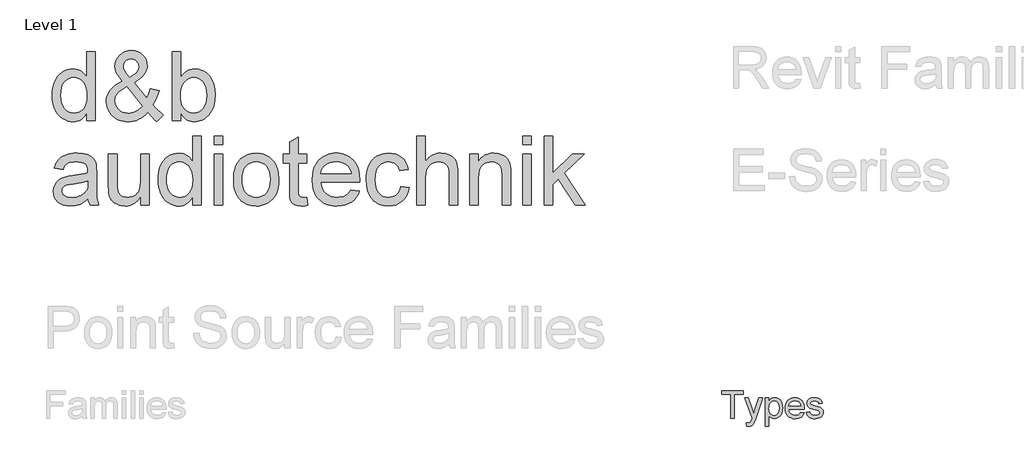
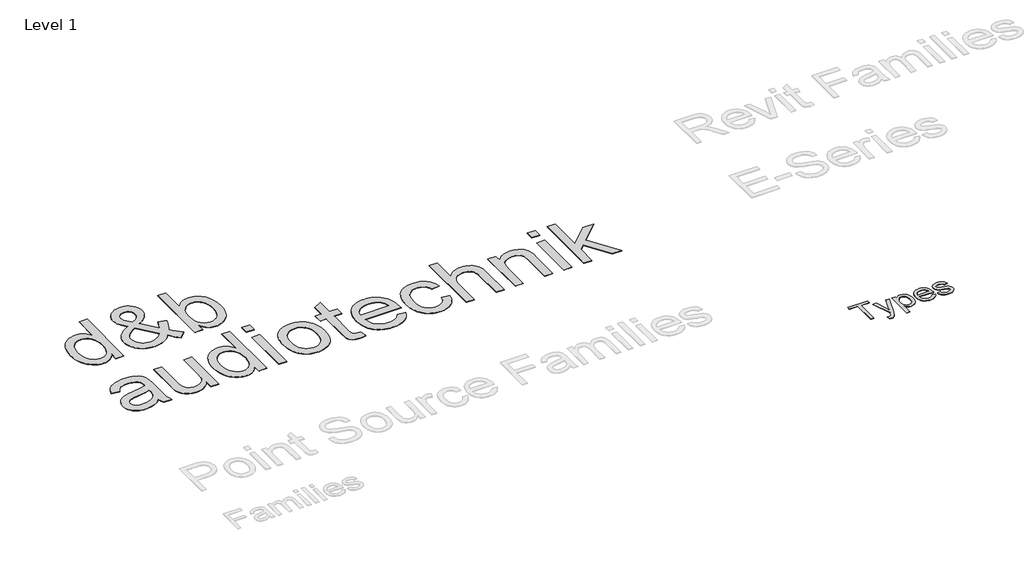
# One storey, part 5 of 6: 2 proxies.
"""IFC4 building model written with IfcOpenShell, lengths in millimetres."""

from ifc_helpers import new_model, si_unit, origin, origin_with_axes, place, context, project, spatial, polyline, outline, extrude, element, save

model = new_model("IFC4")

# Units and contexts
model_context = context("Model", 3, world=origin())
ifc_project = project(units=[si_unit("LENGTHUNIT", "METRE", prefix="MILLI")], contexts=[model_context])

# Site, building, storey
site = spatial("IfcSite", under=ifc_project)
building = spatial("IfcBuilding", under=site)
storey = spatial("IfcBuildingStorey", under=building, Name="Level 1", Elevation=0.0)

# Proxies
placement = place(None, origin())
element("IfcBuildingElementProxy", 1, Name="1000mm Arial", ObjectType="1000mm Arial", at=placement, inside=storey, context=model_context, shape_type="SweptSolid", body=[
    extrude(outline(polyline([(-20485.0918031, 21579.111869), (-20485.0918031, 21694.6019258), (-20502.4384754, 21663.947296), (-20521.720443, 21637.3799502), (-20542.937706, 21614.8998883), (-20566.0902643, 21596.5071105), (-20591.1781179, 21582.2016166), (-20618.2012669, 21571.9834066), (-20647.1597112, 21565.8524807), (-20678.0534508, 21563.8088387), (-20718.4630152, 21566.7678231), (-20757.1988107, 21575.6447762), (-20794.2608372, 21590.4396981), (-20829.6490948, 21611.1525887), (-20862.2577004, 21637.1632569), (-20890.9807709, 21667.8515115), (-20915.8183064, 21703.2173525), (-20936.7703069, 21743.26078), (-20953.4033857, 21787.2196312), (-20965.2841563, 21834.3317435), (-20972.4126187, 21884.597117), (-20974.7887728, 21938.0157516), (-20972.5994233, 21990.4555302), (-20966.0313746, 22040.4145442), (-20955.0846269, 22087.8927935), (-20939.75918, 22132.8902781), (-20920.0625062, 22174.0918939), (-20896.0020777, 22210.1825366), (-20867.5778945, 22241.1622064), (-20834.7899565, 22267.0309031), (-20798.7964521, 22287.429962), (-20760.7555697, 22302.0007184), (-20720.6673091, 22310.7431723), (-20678.5316705, 22313.6573235), (-20647.7163888, 22311.5725845), (-20618.6346535, 22305.3183676), (-20591.2864646, 22294.8946726), (-20565.671822, 22280.3014997), (-20542.0746689, 22262.3757332), (-20520.778948, 22241.9542577), (-20501.7846594, 22219.0370732), (-20485.0918031, 22193.6241796), (-20485.0918031, 22558.5058084), (-20362.6675607, 22558.5058084), (-20362.6675607, 21579.111869), (-20485.0918031, 21579.111869)]), holes=[polyline([(-20852.3645304, 21938.4939713), (-20848.9123819, 21879.1274792), (-20838.5559366, 21827.7562227), (-20821.2951944, 21784.3802017), (-20797.1301554, 21748.9994163), (-20768.2725855, 21721.5391447), (-20736.934251, 21701.9246649), (-20703.1151518, 21690.1559771), (-20666.815288, 21686.2330811), (-20630.3435639, 21689.9766447), (-20596.7262136, 21701.2073354), (-20565.9632372, 21719.9251532), (-20538.0546345, 21746.1300982), (-20514.8833958, 21780.0313914), (-20498.332511, 21821.8382539), (-20488.4019801, 21871.5506859), (-20485.0918031, 21929.1686872), (-20488.4617575, 21992.3385203), (-20498.5716208, 22046.5118453), (-20515.4213929, 22091.6886623), (-20539.0110739, 22127.8689713), (-20567.5323956, 22155.5907693), (-20599.1770896, 22175.3920537), (-20633.945156, 22187.2728242), (-20671.8365948, 22191.2330811), (-20708.8537882, 22187.4297401), (-20742.6728874, 22176.019717), (-20773.2938924, 22157.0030119), (-20800.7168031, 22130.3796247), (-20823.3126838, 22095.5667252), (-20839.4525986, 22051.9814831), (-20849.1365474, 21999.6238985), (-20852.3645304, 21938.4939713)])]), origin_with_axes(), (0.0, 0.0, 1.0), 5.0),
    extrude(outline(polyline([(-19617.362163, 21700.1014523), (-19647.8038355, 21668.157871), (-19679.590501, 21640.4734339), (-19712.7221594, 21617.0481409), (-19747.1988107, 21597.8819921), (-19783.0503436, 21582.9749875), (-19820.3066469, 21572.327127), (-19858.9677205, 21565.9384108), (-19899.0335645, 21563.8088387), (-19935.7219818, 21565.3854693), (-19970.4676317, 21570.1153609), (-20003.270514, 21577.9985138), (-20034.1306289, 21589.0349277), (-20063.0479762, 21603.2246028), (-20090.0225559, 21620.567539), (-20115.0543682, 21641.0637363), (-20138.143413, 21664.7131948), (-20169.42197, 21707.0505823), (-20191.7637965, 21751.8089571), (-20205.1688924, 21798.988319), (-20209.6372577, 21848.5886682), (-20206.0431377, 21892.569936), (-20195.260778, 21934.3693264), (-20177.2901785, 21973.9868394), (-20152.1313391, 22011.4224751), (-20119.829093, 22046.661289), (-20080.4282733, 22079.6883368), (-20033.9288799, 22110.5036185), (-19980.330913, 22139.1071341), (-20033.7420754, 22208.2098804), (-20065.8126838, 22262.9660357), (-20081.8629324, 22309.712011), (-20087.2130152, 22354.7842175), (-20082.9987041, 22397.569936), (-20070.3557709, 22437.4564476), (-20049.2842155, 22474.4437523), (-20019.784038, 22508.5318501), (-19983.9026163, 22537.0905326), (-19943.6873287, 22557.4895915), (-19899.138175, 22569.7290269), (-19850.2551554, 22573.8088387), (-19803.5839018, 22569.9083593), (-19761.3660692, 22558.2069211), (-19723.6016575, 22538.7045241), (-19690.2906667, 22511.4011682), (-19663.0919215, 22478.6281746), (-19643.6642463, 22442.7168643), (-19632.0076412, 22403.6672371), (-19628.1221061, 22361.4792932), (-19630.9988965, 22326.7336434), (-19639.6292676, 22293.273209), (-19654.0132194, 22261.09799), (-19674.150752, 22230.2079864), (-19700.0418653, 22200.6031983), (-19731.6865593, 22172.2836256), (-19769.084834, 22145.2492684), (-19812.2366895, 22119.5001266), (-19635.0562917, 21898.8017364), (-19604.8686734, 21961.866959), (-19582.2130152, 22034.3770205), (-19459.7887728, 22007.8358273), (-19477.213903, 21947.9836434), (-19497.4485739, 21894.4379817), (-19520.4927856, 21847.1988422), (-19546.346538, 21806.2662251), (-19512.6320493, 21763.9138931), (-19476.765572, 21725.0884315), (-19438.7471061, 21689.7898401), (-19398.5766516, 21658.018119), (-19490.3948334, 21563.8088387), (-19521.3745032, 21589.6327023), (-19552.8622813, 21620.9560925), (-19617.362163, 21700.1014523)]), holes=[polyline([(-19874.1661402, 22196.7326076), (-19810.1444783, 22237.3513931), (-19788.4004264, 22255.6657131), (-19773.500894, 22272.6499845), (-19756.2849849, 22306.9921365), (-19750.5463486, 22344.7416038), (-19752.4368108, 22367.2104574), (-19758.1081975, 22387.512378), (-19767.5605087, 22405.6473656), (-19780.7937444, 22421.6154201), (-19796.8664095, 22434.6394347), (-19814.8370091, 22443.9423022), (-19834.705543, 22449.5240228), (-19856.4720114, 22451.3845963), (-19878.7017552, 22449.5389671), (-19899.0036757, 22444.0020797), (-19917.3777732, 22434.773934), (-19933.8240474, 22421.85453), (-19947.3711148, 22406.2750289), (-19957.0475915, 22389.066592), (-19962.8534775, 22370.2292193), (-19964.7887728, 22349.7629107), (-19962.1585645, 22327.9142483), (-19954.2679395, 22304.9298141), (-19941.0571203, 22280.6900532), (-19922.4663296, 22255.0754107), (-19874.1661402, 22196.7326076)]), polyline([(-19699.376841, 21788.3329864), (-19917.9232425, 22061.1573235), (-19963.7202507, 22034.0333001), (-20001.4024684, 22007.8956048), (-20030.9698956, 21982.7442376), (-20052.4225323, 21958.5791985), (-20067.6433686, 21934.967101), (-20078.5153945, 21911.4745584), (-20085.03861, 21888.1015707), (-20087.2130152, 21864.8481379), (-20084.2390865, 21836.2446223), (-20075.3173003, 21807.1031095), (-20060.4476566, 21777.4235996), (-20039.6301554, 21747.2060925), (-20013.3579608, 21720.5304), (-19982.1242368, 21701.476334), (-19945.9289835, 21690.0438943), (-19904.7722008, 21686.2330811), (-19877.2969848, 21688.0114606), (-19849.3883822, 21693.3465991), (-19821.0463929, 21702.2384966), (-19792.2710171, 21714.6871531), (-19764.7210793, 21729.9602947), (-19740.055404, 21747.3256474), (-19718.2739912, 21766.7832113), (-19699.376841, 21788.3329864)])]), origin_with_axes(), (0.0, 0.0, 1.0), 5.0),
    extrude(outline(polyline([(-19153.7281667, 21579.111869), (-19276.1524092, 21579.111869), (-19276.1524092, 22558.5058084), (-19153.7281667, 22558.5058084), (-19153.7281667, 22195.2979485), (-19134.2481863, 22223.0384271), (-19113.468046, 22247.0801751), (-19091.3877459, 22267.4231927), (-19068.0072861, 22284.0674798), (-19043.3266664, 22297.0130364), (-19017.3458869, 22306.2598626), (-18990.0649476, 22311.8079583), (-18961.4838486, 22313.6573235), (-18929.5178507, 22311.9910268), (-18898.418626, 22306.9921365), (-18868.1861746, 22298.6606527), (-18838.8204963, 22286.9965754), (-18811.1734201, 22272.3137363), (-18786.0967747, 22254.925967), (-18763.5905602, 22234.8332675), (-18743.6547766, 22212.0356379), (-18710.3886189, 22158.7440305), (-18685.1924186, 22095.4695868), (-18669.3215024, 22024.8425153), (-18664.031197, 21949.4930243), (-18669.508307, 21862.5467056), (-18676.3546945, 21822.9964423), (-18685.9396369, 21786.0614429), (-18698.2631343, 21751.7417074), (-18713.3251867, 21720.0372359), (-18731.1257941, 21690.9480284), (-18751.6649565, 21664.4740849), (-18797.6861302, 21620.4330397), (-18822.3499374, 21603.1312005), (-18848.1158916, 21588.9751502), (-18874.9839928, 21577.9648889), (-18902.954241, 21570.1004166), (-18932.0266361, 21565.3817332), (-18962.2011781, 21563.8088387), (-18991.8694798, 21565.8375363), (-19019.9013734, 21571.9236292), (-19046.296859, 21582.0671173), (-19071.0559366, 21596.2680006), (-19094.1786062, 21614.5262792), (-19115.6648677, 21636.841953), (-19135.5147213, 21663.2150221), (-19153.7281667, 21693.6454864), (-19153.7281667, 21579.111869)]), holes=[polyline([(-19153.7281667, 21943.7543879), (-19151.6359556, 21888.5797904), (-19145.359322, 21841.6544826), (-19134.8982662, 21802.9784646), (-19120.252788, 21772.5517364), (-19090.5882224, 21734.7873247), (-19056.1115711, 21707.8127449), (-19016.8228341, 21691.6279971), (-18972.7220114, 21686.2330811), (-18936.1083159, 21690.2082823), (-18902.0650512, 21702.133886), (-18870.5922174, 21722.0098922), (-18841.6898145, 21749.8363008), (-18817.5247754, 21785.5383901), (-18800.2640332, 21829.0414381), (-18789.9075879, 21880.345445), (-18786.4554395, 21939.4504107), (-18789.7656164, 21999.6762037), (-18799.6961473, 22051.4733747), (-18816.2470322, 22094.8419234), (-18839.4182709, 22129.7818501), (-18867.2820404, 22156.6667636), (-18897.9105176, 22175.8702733), (-18931.3037024, 22187.3923792), (-18967.4615948, 22191.2330811), (-19004.0752903, 22187.2578799), (-19038.118555, 22175.3322762), (-19069.5913888, 22155.45627), (-19098.4937917, 22127.6298614), (-19122.6588308, 22092.2864369), (-19139.919573, 22049.8593832), (-19150.2760183, 22000.3487002), (-19153.7281667, 21943.7543879)])]), origin_with_axes(), (0.0, 0.0, 1.0), 5.0),
    extrude(outline(polyline([(-20469.7887728, 20473.9603538), (-20498.8182028, 20446.7167755), (-20528.2810195, 20423.8070631), (-20558.1772227, 20405.2312168), (-20588.5068126, 20390.9892364), (-20619.6135094, 20380.42357), (-20651.8410337, 20372.8766654), (-20719.6585645, 20366.8391417), (-20774.1681377, 20370.4706225), (-20821.9676909, 20381.365065), (-20863.0572239, 20399.5224691), (-20897.4367368, 20424.9428349), (-20924.5831768, 20456.0121708), (-20943.9734911, 20491.1164855), (-20955.6076796, 20530.2557788), (-20959.4857425, 20573.4300508), (-20953.6275512, 20624.1811162), (-20936.0529773, 20670.2695394), (-20908.9438983, 20709.7226644), (-20874.4821914, 20740.5678349), (-20833.9829608, 20763.8810451), (-20788.7613107, 20780.7382894), (-20744.7053211, 20790.123351), (-20682.8356478, 20799.1497478), (-20557.6616421, 20818.5176455), (-20509.331564, 20829.4569211), (-20470.5061023, 20841.2330811), (-20469.7887728, 20868.4916038), (-20471.8959283, 20898.1711138), (-20478.217395, 20923.1282042), (-20488.7531727, 20943.3628751), (-20503.5032614, 20958.8751266), (-20528.998349, 20974.3574893), (-20560.0527406, 20985.4163198), (-20596.6664362, 20992.051618), (-20638.8394357, 20994.2633841), (-20678.0534508, 20992.7913641), (-20711.7679395, 20988.3753041), (-20739.9829016, 20981.0152041), (-20762.6983372, 20970.7110641), (-20781.3638497, 20956.6558883), (-20797.4290427, 20938.042681), (-20810.893916, 20914.8714423), (-20821.7584698, 20887.142172), (-20944.1827122, 20902.4452023), (-20934.8649003, 20937.713905), (-20922.9318244, 20969.3959599), (-20908.3834846, 20997.4913671), (-20891.2198808, 21022.0001266), (-20870.7012669, 21043.4154024), (-20846.0878969, 21062.2303586), (-20817.3797707, 21078.4449952), (-20784.5768883, 21092.0593122), (-20748.3442741, 21102.8341997), (-20709.3469523, 21110.530548), (-20667.5849228, 21115.1483569), (-20623.0581857, 21116.6876266), (-20540.2962894, 21111.2478775), (-20505.3488906, 21104.4481912), (-20474.6905247, 21094.9286304), (-20425.2246748, 21070.3899822), (-20406.1631366, 21056.0359191), (-20390.8825228, 21040.29203), (-20368.1073097, 21003.0805598), (-20353.3422766, 20957.2013576), (-20348.8589669, 20914.8789144), (-20347.3645304, 20850.0801455), (-20347.3645304, 20697.767172), (-20345.8103164, 20565.0910948), (-20341.1476743, 20485.0789618), (-20331.9419452, 20432.5046839), (-20316.7584698, 20382.142172), (-20439.1827122, 20382.142172), (-20458.7897198, 20424.7037251), (-20469.7887728, 20473.9603538)]), holes=[polyline([(-20469.7887728, 20718.8088387), (-20552.0425607, 20698.4247241), (-20667.2935077, 20681.2685925), (-20730.8070612, 20671.8835309), (-20772.6213959, 20661.4224751), (-20800.0293623, 20647.8529912), (-20820.3238107, 20629.1426455), (-20832.8770777, 20606.7260972), (-20837.0615001, 20582.0380054), (-20834.7824843, 20563.013828), (-20827.9454371, 20545.6335309), (-20816.5503584, 20529.897114), (-20800.5972482, 20515.8045773), (-20780.2355501, 20504.1928053), (-20755.6147079, 20495.8986824), (-20726.7347215, 20490.9222087), (-20693.595591, 20489.2633841), (-20659.7615474, 20491.0940689), (-20627.8403827, 20496.5861233), (-20597.8320967, 20505.7395471), (-20569.7366895, 20518.5543406), (-20544.3910455, 20533.9694536), (-20522.6320493, 20550.9238363), (-20504.4597008, 20569.4174887), (-20489.8740001, 20589.4504107), (-20481.4005448, 20607.3836493), (-20475.3480768, 20629.1426455), (-20470.5061023, 20684.1379107), (-20469.7887728, 20718.8088387)])]), origin_with_axes(), (0.0, 0.0, 1.0), 5.0),
    extrude(outline(polyline([(-19719.940288, 20382.142172), (-19719.940288, 20505.7619637), (-19741.1762314, 20473.2019273), (-19764.2353874, 20444.9832291), (-19789.117756, 20421.1058691), (-19815.8233372, 20401.5698472), (-19844.352131, 20386.3751636), (-19874.7041374, 20375.5218181), (-19906.8793564, 20369.0098108), (-19940.877788, 20366.8391417), (-20000.5058064, 20372.9364429), (-20028.7730738, 20380.5580693), (-20056.00918, 20391.2283463), (-20102.575823, 20418.7259788), (-20120.7033384, 20434.8061162), (-20135.3936497, 20452.4404675), (-20157.4814219, 20493.388029), (-20171.8579016, 20542.5848804), (-20177.2378732, 20588.972191), (-20179.031197, 20656.4011682), (-20179.031197, 21101.3845963), (-20056.6069546, 21101.3845963), (-20056.6069546, 20714.0266417), (-20054.7538533, 20636.5550508), (-20049.1945493, 20589.2113008), (-20041.864338, 20567.1459451), (-20031.3509769, 20547.5762984), (-20017.6544659, 20530.5023608), (-20000.774805, 20515.9241323), (-19981.2201027, 20504.260055), (-19959.4984674, 20495.9285712), (-19935.6098991, 20490.9296809), (-19909.5543978, 20489.2633841), (-19882.7217895, 20490.9670418), (-19856.74101, 20496.0780148), (-19831.6120594, 20504.5963032), (-19807.3349376, 20516.5219069), (-19785.2247488, 20531.3840784), (-19766.5965971, 20548.7120702), (-19751.4504827, 20568.5058824), (-19739.7864054, 20590.7655148), (-19731.103729, 20616.9106823), (-19724.9018173, 20648.3610996), (-19719.940288, 20727.1776834), (-19719.940288, 21101.3845963), (-19597.5160455, 21101.3845963), (-19597.5160455, 20382.142172), (-19719.940288, 20382.142172)])), origin_with_axes(), (0.0, 0.0, 1.0), 5.0),
    extrude(outline(polyline([(-18985.3948334, 20382.142172), (-18985.3948334, 20497.6322288), (-19002.7415057, 20466.977599), (-19022.0234733, 20440.4102532), (-19043.2407363, 20417.9301914), (-19066.3932946, 20399.5374135), (-19091.4811482, 20385.2319196), (-19118.5042972, 20375.0137097), (-19147.4627415, 20368.8827837), (-19178.3564811, 20366.8391417), (-19218.7660455, 20369.7981261), (-19257.501841, 20378.6750792), (-19294.5638675, 20393.4700011), (-19329.9521251, 20414.1828917), (-19362.5607307, 20440.1935599), (-19391.2838012, 20470.8818145), (-19416.1213367, 20506.2476556), (-19437.0733372, 20546.291083), (-19453.706416, 20590.2499342), (-19465.5871866, 20637.3620466), (-19472.715649, 20687.62742), (-19475.0918031, 20741.0460546), (-19472.9024536, 20793.4858332), (-19466.3344049, 20843.4448472), (-19455.3876572, 20890.9230965), (-19440.0622103, 20935.9205811), (-19420.3655365, 20977.1221969), (-19396.305108, 21013.2128396), (-19367.8809248, 21044.1925094), (-19335.0929868, 21070.0612061), (-19299.0994824, 21090.4602651), (-19261.0586, 21105.0310215), (-19220.9703394, 21113.7734753), (-19178.8347008, 21116.6876266), (-19148.0194191, 21114.6028876), (-19118.9376838, 21108.3486706), (-19091.5894949, 21097.9249756), (-19065.9748523, 21083.3318027), (-19042.3776992, 21065.4060363), (-19021.0819783, 21044.9845608), (-19002.0876897, 21022.0673762), (-18985.3948334, 20996.6544826), (-18985.3948334, 21361.5361114), (-18862.970591, 21361.5361114), (-18862.970591, 20382.142172), (-18985.3948334, 20382.142172)]), holes=[polyline([(-19352.6675607, 20741.5242743), (-19349.2154122, 20682.1577822), (-19338.8589669, 20630.7865257), (-19321.5982247, 20587.4105048), (-19297.4331857, 20552.0297194), (-19268.5756158, 20524.5694477), (-19237.2372813, 20504.954968), (-19203.4181821, 20493.1862801), (-19167.1183183, 20489.2633841), (-19130.6465942, 20493.0069477), (-19097.0292439, 20504.2376384), (-19066.2662675, 20522.9554562), (-19038.3576648, 20549.1604012), (-19015.1864261, 20583.0616944), (-18998.6355413, 20624.868557), (-18988.7050104, 20674.5809889), (-18985.3948334, 20732.1989902), (-18988.7647878, 20795.3688233), (-18998.8746511, 20849.5421483), (-19015.7244233, 20894.7189653), (-19039.3141042, 20930.8992743), (-19067.8354259, 20958.6210724), (-19099.4801199, 20978.4223567), (-19134.2481863, 20990.3031273), (-19172.1396251, 20994.2633841), (-19209.1568185, 20990.4600431), (-19242.9759177, 20979.05002), (-19273.5969227, 20960.0333149), (-19301.0198334, 20933.4099277), (-19323.6157141, 20898.5970282), (-19339.7556289, 20855.0117861), (-19349.4395777, 20802.6542015), (-19352.6675607, 20741.5242743)])]), origin_with_axes(), (0.0, 0.0, 1.0), 5.0),
    extrude(outline(polyline([(-18679.3342273, 20382.142172), (-18679.3342273, 21101.3845963), (-18556.9099849, 21101.3845963), (-18556.9099849, 20382.142172), (-18679.3342273, 20382.142172)])), origin_with_axes(), (0.0, 0.0, 1.0), 5.0),
    extrude(outline(polyline([(-18679.3342273, 21239.111869), (-18679.3342273, 21361.5361114), (-18556.9099849, 21361.5361114), (-18556.9099849, 21239.111869), (-18679.3342273, 21239.111869)])), origin_with_axes(), (0.0, 0.0, 1.0), 5.0),
    extrude(outline(polyline([(-18403.8796819, 20741.7633841), (-18402.2245934, 20789.9477547), (-18397.259328, 20834.9116145), (-18388.9838856, 20876.6549635), (-18377.3982662, 20915.1778018), (-18362.5024698, 20950.4801292), (-18344.2964965, 20982.5619459), (-18322.7803463, 21011.4232519), (-18297.954019, 21037.064047), (-18251.2977098, 21071.8993631), (-18199.7994262, 21096.7817317), (-18143.4591682, 21111.7111528), (-18082.2769357, 21116.6876266), (-18014.7358757, 21110.6276863), (-17983.391937, 21103.0527611), (-17953.6657259, 21092.4478657), (-17925.5572424, 21078.8130002), (-17899.0664865, 21062.1481646), (-17874.1934581, 21042.4533588), (-17850.9381573, 21019.728583), (-17829.8946226, 20994.3325018), (-17811.6568925, 20966.6237801), (-17796.224967, 20936.6024178), (-17783.5988462, 20904.2684149), (-17773.77853, 20869.6217715), (-17766.7640184, 20832.6624875), (-17761.1524092, 20751.8059978), (-17763.6331738, 20686.2749549), (-17771.0754679, 20628.1264287), (-17783.4792913, 20577.3604189), (-17800.844644, 20533.9769258), (-17822.9548328, 20496.5039292), (-17849.5931644, 20463.4694092), (-17880.7596387, 20434.8733658), (-17916.4542558, 20410.7157989), (-17955.2871896, 20391.5197614), (-17995.8686142, 20377.808306), (-18038.1985295, 20369.5814328), (-18082.2769357, 20366.8391417), (-18150.8043238, 20372.8766654), (-18182.4845107, 20380.42357), (-18212.4423594, 20390.9892364), (-18240.6778701, 20404.5736647), (-18267.1910426, 20421.1768548), (-18291.9818769, 20440.7988067), (-18315.0503732, 20463.4395205), (-18335.8697424, 20488.9196637), (-18353.9131957, 20517.059904), (-18369.1807332, 20547.8602414), (-18381.6723547, 20581.3206758), (-18391.3880604, 20617.4412073), (-18398.3278501, 20656.2218358), (-18403.8796819, 20741.7633841)]), holes=[polyline([(-18281.4554395, 20742.002494), (-18277.9136248, 20682.6210576), (-18267.2881809, 20631.204968), (-18249.5791078, 20587.7542252), (-18224.7864054, 20552.2688292), (-18194.6286757, 20524.703947), (-18160.8245209, 20505.0147454), (-18123.3739409, 20493.2012245), (-18082.2769357, 20489.2633841), (-18041.3891516, 20493.223641), (-18004.0880152, 20505.1044116), (-17970.3735266, 20524.9056959), (-17940.2456857, 20552.627494), (-17915.4529833, 20588.4640825), (-17897.7439101, 20632.6097383), (-17887.1184662, 20685.0644613), (-17883.5766516, 20745.8282516), (-17887.1408828, 20803.3266979), (-17897.8335763, 20853.3977947), (-17915.6547322, 20896.0415417), (-17940.6043505, 20931.2579391), (-17970.8442741, 20958.8228213), (-18004.5363462, 20978.5120229), (-18041.6805667, 20990.3255438), (-18082.2769357, 20994.2633841), (-18123.3739409, 20990.3404882), (-18160.8245209, 20978.5718003), (-18194.6286757, 20958.9573206), (-18224.7864054, 20931.4970489), (-18249.5791078, 20896.1162635), (-18267.2881809, 20852.7402426), (-18277.9136248, 20801.3689861), (-18281.4554395, 20742.002494)])]), origin_with_axes(), (0.0, 0.0, 1.0), 5.0),
    extrude(outline(polyline([(-17363.2736213, 20484.2420773), (-17347.970591, 20378.5555243), (-17396.4501128, 20369.7682374), (-17439.549663, 20366.8391417), (-17498.3109082, 20371.920226), (-17522.0873938, 20378.2715814), (-17542.127788, 20387.1634788), (-17573.0925133, 20410.6560215), (-17593.2972955, 20440.4849751), (-17599.7831502, 20461.5415861), (-17604.4159035, 20491.7142601), (-17608.1221061, 20579.407797), (-17608.1221061, 20978.9603538), (-17699.940288, 20978.9603538), (-17699.940288, 21101.3845963), (-17608.1221061, 21101.3845963), (-17608.1221061, 21276.1738955), (-17485.6978637, 21348.1459599), (-17485.6978637, 21101.3845963), (-17363.2736213, 21101.3845963), (-17363.2736213, 20978.9603538), (-17485.6978637, 20978.9603538), (-17485.6978637, 20582.9944448), (-17484.0838722, 20542.7044353), (-17479.2418978, 20519.8694448), (-17470.7833869, 20507.2265115), (-17458.3197861, 20497.5126739), (-17440.655546, 20491.3257066), (-17416.5951175, 20489.2633841), (-17363.2736213, 20484.2420773)])), origin_with_axes(), (0.0, 0.0, 1.0), 5.0),
    extrude(outline(polyline([(-16737.284038, 20596.3845963), (-16617.250894, 20581.081566), (-16635.6548802, 20533.0055421), (-16660.4998879, 20490.6382658), (-16691.7859171, 20453.9797371), (-16729.5129679, 20423.0299561), (-16773.2924867, 20398.4464748), (-16822.7359201, 20380.8868453), (-16877.8432679, 20370.3510676), (-16938.6145304, 20366.8391417), (-16977.6305327, 20368.3541268), (-17014.5767404, 20372.8990819), (-17049.4531534, 20380.4740072), (-17082.2597719, 20391.0789026), (-17112.9965957, 20404.7137681), (-17141.6636248, 20421.3786037), (-17168.2608594, 20441.0734094), (-17192.7882993, 20463.7981853), (-17214.812558, 20489.25778), (-17233.9002489, 20517.1570424), (-17250.0513719, 20547.4959725), (-17263.2659272, 20580.2745702), (-17273.5439146, 20615.4928356), (-17280.8853341, 20653.1507687), (-17286.7584698, 20735.7856379), (-17280.8255567, 20821.2225757), (-17273.4094153, 20860.1414396), (-17263.0268173, 20896.5272336), (-17249.6777628, 20930.3799576), (-17233.3622517, 20961.6996117), (-17214.0802841, 20990.4861958), (-17191.8318599, 21016.7397099), (-17167.2184899, 21040.1650029), (-17140.8416847, 21060.4669234), (-17112.7014444, 21077.6454716), (-17082.797769, 21091.7006474), (-17051.1306585, 21102.6324508), (-17017.7001128, 21110.4408818), (-16982.5061319, 21115.1259404), (-16945.548716, 21116.6876266), (-16909.7999256, 21115.1296765), (-16875.721168, 21110.4558261), (-16843.3124433, 21102.6660756), (-16812.5737515, 21091.7604249), (-16783.5050925, 21077.7388739), (-16756.1064663, 21060.6014227), (-16730.377873, 21040.3480713), (-16706.3193126, 21016.9788198), (-16684.54724, 20990.7850831), (-16665.6781105, 20962.0582764), (-16649.711924, 20930.7983998), (-16636.6486805, 20897.0054533), (-16626.48838, 20860.6794368), (-16619.2310224, 20821.8203503), (-16613.4251364, 20736.5029675), (-16614.142466, 20703.5058084), (-17164.3342273, 20703.5058084), (-17157.2431259, 20654.6526775), (-17143.143117, 20611.866959), (-17122.0342007, 20575.1486528), (-17093.916377, 20544.4977591), (-17060.3438598, 20520.3327201), (-17022.8708632, 20503.0719779), (-16981.4973873, 20492.7155326), (-16936.2234319, 20489.2633841), (-16902.3594996, 20490.8624313), (-16871.0659982, 20495.6595726), (-16842.3429276, 20503.6548082), (-16816.190288, 20514.8481379), (-16792.6080791, 20529.5384492), (-16771.5963012, 20548.0246294), (-16753.1549541, 20570.3066784), (-16737.284038, 20596.3845963)]), holes=[polyline([(-17164.3342273, 20825.9300508), (-16735.8493789, 20825.9300508), (-16742.1409568, 20860.5710901), (-16752.4077359, 20890.6092648), (-16766.6497162, 20916.044575), (-16784.8668978, 20936.8770205), (-16818.2526104, 20961.9835546), (-16856.2411876, 20979.9167932), (-16898.8326293, 20990.6767364), (-16946.0269357, 20994.2633841), (-16989.0741806, 20991.4015381), (-17028.5497221, 20982.8160001), (-17064.4535603, 20968.5067702), (-17096.7856952, 20948.4738482), (-17123.9171908, 20923.6437848), (-17144.2191113, 20894.9431308), (-17157.6914569, 20862.3718862), (-17164.3342273, 20825.9300508)])]), origin_with_axes(), (0.0, 0.0, 1.0), 5.0),
    extrude(outline(polyline([(-16031.9099849, 20642.2936872), (-15909.4857425, 20626.9906569), (-15922.8011722, 20569.2232119), (-15943.6186734, 20518.1060096), (-15971.9382461, 20473.63905), (-16007.7598902, 20435.822333), (-16049.574225, 20405.6421868), (-16095.8718694, 20384.0849395), (-16146.6528235, 20371.1505912), (-16201.9170872, 20366.8391417), (-16270.5789746, 20372.8542488), (-16302.2479532, 20380.3731328), (-16332.1422884, 20390.8995702), (-16360.2619802, 20404.4335613), (-16386.6070286, 20420.9751059), (-16411.1774336, 20440.524204), (-16433.9731952, 20463.0808557), (-16454.5123575, 20488.4470482), (-16472.3129649, 20516.4247685), (-16487.3750173, 20547.0140167), (-16499.6985148, 20580.2147928), (-16509.2834572, 20616.0270967), (-16516.1298447, 20654.4509285), (-16521.6069546, 20739.1331758), (-16519.2681614, 20795.4211286), (-16512.2517818, 20848.0776005), (-16500.5578158, 20897.1025916), (-16484.1862633, 20942.4961019), (-16463.0250417, 20983.3465251), (-16436.9620683, 21018.7422549), (-16405.9973429, 21048.6832912), (-16370.1308656, 21073.1696341), (-16330.9841001, 21092.2087558), (-16290.17851, 21105.8081285), (-16247.7140954, 21113.967752), (-16203.5908561, 21116.6876266), (-16149.2755596, 21112.9515352), (-16100.1459579, 21101.743261), (-16056.2020511, 21083.0628041), (-16017.4438391, 21056.9101644), (-15984.528874, 21023.8831166), (-15958.1147079, 20984.5794353), (-15938.2013409, 20938.9991204), (-15924.7887728, 20887.142172), (-16047.2130152, 20871.8391417), (-16056.769937, 20900.4351852), (-16069.4203424, 20925.2503041), (-16085.1642315, 20946.2844986), (-16104.0016042, 20963.5377686), (-16125.454241, 20976.9802254), (-16149.0439219, 20986.5819803), (-16174.7706472, 20992.3430332), (-16202.6344167, 20994.2633841), (-16244.2320582, 20990.4824597), (-16281.7498879, 20979.1396862), (-16315.1879057, 20960.2350638), (-16344.5461118, 20933.7685925), (-16368.4496245, 20899.1275532), (-16385.5235621, 20855.6992269), (-16395.7679247, 20803.4836138), (-16399.1827122, 20742.4807137), (-16395.8426465, 20680.5587351), (-16385.8224494, 20627.7378751), (-16369.1221209, 20584.0181338), (-16345.7416611, 20549.399511), (-16316.9662852, 20523.0899555), (-16284.0812089, 20504.2974159), (-16247.086432, 20493.0218921), (-16205.9819546, 20489.2633841), (-16172.8577684, 20491.6096495), (-16142.587956, 20498.6484457), (-16115.1725175, 20510.3797726), (-16090.6114527, 20526.8036304), (-16069.5922026, 20548.0993512), (-16052.8022079, 20574.4462677), (-16040.2414687, 20605.8443796), (-16031.9099849, 20642.2936872)])), origin_with_axes(), (0.0, 0.0, 1.0), 5.0),
    extrude(outline(polyline([(-15802.3645304, 20382.142172), (-15802.3645304, 21361.5361114), (-15679.940288, 21361.5361114), (-15679.940288, 21001.4366796), (-15658.1476669, 21028.4486203), (-15634.9726921, 21051.8589689), (-15610.4153634, 21071.6677254), (-15584.4756809, 21087.8748898), (-15557.1536447, 21100.4804622), (-15528.4492546, 21109.4844424), (-15498.3625107, 21114.8868305), (-15466.893413, 21116.6876266), (-15428.6208928, 21114.7224425), (-15392.9486923, 21108.8268903), (-15359.8768114, 21099.00097), (-15329.4052501, 21085.2446815), (-15302.3111154, 21068.0213002), (-15279.3715143, 21047.7941015), (-15260.5864468, 21024.5630853), (-15245.955913, 20998.3282516), (-15234.9718043, 20967.4681367), (-15227.1260124, 20930.3612771), (-15222.4185372, 20887.0076727), (-15220.8493789, 20837.4073235), (-15220.8493789, 20382.142172), (-15343.2736213, 20382.142172), (-15343.2736213, 20824.7345016), (-15345.7095529, 20866.0706166), (-15353.0173476, 20901.369208), (-15365.1970055, 20930.6302757), (-15382.2485266, 20953.8538198), (-15403.768413, 20971.5330042), (-15429.3531667, 20984.160993), (-15459.002788, 20991.7377864), (-15492.7172766, 20994.2633841), (-15518.981999, 20992.5597265), (-15544.4546701, 20987.4487535), (-15569.1352897, 20978.9304651), (-15593.023858, 20967.0048614), (-15614.8276873, 20952.1651064), (-15633.25409, 20934.9043643), (-15648.3030661, 20915.2226349), (-15659.9746156, 20893.1199182), (-15668.7095973, 20867.5799975), (-15674.9488699, 20837.5866559), (-15679.940288, 20764.2397099), (-15679.940288, 20382.142172), (-15802.3645304, 20382.142172)])), origin_with_axes(), (0.0, 0.0, 1.0), 5.0),
    extrude(outline(polyline([(-15052.5160455, 20382.142172), (-15052.5160455, 21101.3845963), (-14930.0918031, 21101.3845963), (-14930.0918031, 21000.9584599), (-14909.8944931, 21028.0824833), (-14887.5601388, 21051.5899703), (-14863.0887403, 21071.4809208), (-14836.4802974, 21087.7553349), (-14807.7348103, 21100.4132125), (-14776.852279, 21109.4545537), (-14743.8327033, 21114.8793583), (-14708.6760834, 21116.6876266), (-14648.3307354, 21110.859324), (-14593.0664717, 21093.3744163), (-14568.3634354, 21080.8062049), (-14546.9780484, 21066.4147809), (-14528.9103104, 21050.2001443), (-14514.1602217, 21032.1622951), (-14491.893117, 20990.7066251), (-14477.4568599, 20942.1374372), (-14472.6148855, 20895.6903491), (-14471.000894, 20823.7780622), (-14471.000894, 20382.142172), (-14593.4251364, 20382.142172), (-14593.4251364, 20807.2794826), (-14596.9520067, 20870.583815), (-14607.5326175, 20915.596244), (-14615.9388231, 20932.6253485), (-14627.0499589, 20947.8461848), (-14657.3870209, 20972.8630527), (-14696.27226, 20988.9133013), (-14741.4341327, 20994.2633841), (-14778.6082419, 20991.2595667), (-14813.1371985, 20982.2481143), (-14845.0210023, 20967.2290269), (-14874.2596535, 20946.2023046), (-14898.6862189, 20916.7768489), (-14916.1337657, 20876.5615612), (-14926.6022938, 20825.5564417), (-14930.0918031, 20763.7614902), (-14930.0918031, 20382.142172), (-15052.5160455, 20382.142172)])), origin_with_axes(), (0.0, 0.0, 1.0), 5.0),
    extrude(outline(polyline([(-14302.6675607, 20382.142172), (-14302.6675607, 21101.3845963), (-14180.2433183, 21101.3845963), (-14180.2433183, 20382.142172), (-14302.6675607, 20382.142172)])), origin_with_axes(), (0.0, 0.0, 1.0), 5.0),
    extrude(outline(polyline([(-14302.6675607, 21239.111869), (-14302.6675607, 21361.5361114), (-14180.2433183, 21361.5361114), (-14180.2433183, 21239.111869), (-14302.6675607, 21239.111869)])), origin_with_axes(), (0.0, 0.0, 1.0), 5.0),
    extrude(outline(polyline([(-13996.6069546, 20382.142172), (-13996.6069546, 21361.5361114), (-13874.1827122, 21361.5361114), (-13874.1827122, 20835.2553349), (-13599.6846061, 21101.3845963), (-13430.3948334, 21101.3845963), (-13708.2404773, 20831.907797), (-13415.0918031, 20382.142172), (-13558.0794925, 20382.142172), (-13795.9937917, 20746.784691), (-13874.1827122, 20670.986869), (-13874.1827122, 20382.142172), (-13996.6069546, 20382.142172)])), origin_with_axes(), (0.0, 0.0, 1.0), 5.0),
])
element("IfcBuildingElementProxy", 2, Name="400mm Arial", ObjectType="400mm Arial", at=placement, inside=storey, context=model_context, shape_type="SweptSolid", body=[
    extrude(outline(polyline([(-11345.9583027, 17351.3054836), (-11345.9583027, 17694.0933624), (-11474.5037572, 17694.0933624), (-11474.5037572, 17743.0630593), (-11168.4431512, 17743.0630593), (-11168.4431512, 17694.0933624), (-11296.9886057, 17694.0933624), (-11296.9886057, 17351.3054836), (-11345.9583027, 17351.3054836)])), origin_with_axes(), (0.0, 0.0, 1.0), 5.0),
    extrude(outline(polyline([(-11119.4734542, 17241.1236654), (-11125.5946663, 17288.2761275), (-11100.7272421, 17283.9721502), (-11087.6479334, 17285.3231209), (-11077.4857648, 17289.3760328), (-11063.2348179, 17304.4399533), (-11049.8446663, 17340.4977184), (-11046.0189088, 17352.3575669), (-11150.0795148, 17639.0024533), (-11098.4317875, 17639.0024533), (-11043.2452345, 17479.2770745), (-11024.0208027, 17415.386923), (-11004.7963709, 17471.8168472), (-10948.0795148, 17639.0024533), (-10896.8143633, 17639.0024533), (-10996.9535679, 17344.4191199), (-11022.9687194, 17280.5289684), (-11036.2871379, 17260.1328983), (-11051.3749694, 17246.0015063), (-11068.9017213, 17237.7522165), (-11089.5369012, 17235.0024533), (-11119.4734542, 17241.1236654)])), origin_with_axes(), (0.0, 0.0, 1.0), 5.0),
    extrude(outline(polyline([(-10856.261333, 17241.1236654), (-10856.261333, 17639.0024533), (-10807.291636, 17639.0024533), (-10807.291636, 17590.9891957), (-10791.3190982, 17614.6730262), (-10773.4336815, 17631.590048), (-10752.5833027, 17641.740261), (-10727.7158785, 17645.1236654), (-10694.5991644, 17640.3892904), (-10665.6429618, 17626.1861654), (-10642.0667307, 17603.3750858), (-10625.0899315, 17572.8168472), (-10614.832119, 17536.7351711), (-10611.4128482, 17497.353779), (-10615.2744722, 17455.4736891), (-10626.8593444, 17418.0171313), (-10645.7968444, 17386.885029), (-10671.7163519, 17363.9783055), (-10701.9039703, 17349.88278), (-10733.6458027, 17345.1842715), (-10756.1579949, 17348.328566), (-10776.2551777, 17357.7614495), (-10793.4591313, 17372.000441), (-10807.291636, 17389.5630593), (-10807.291636, 17241.1236654), (-10856.261333, 17241.1236654)]), holes=[polyline([(-10807.291636, 17492.8585139), (-10801.9953529, 17448.9579457), (-10795.374999, 17431.9572355), (-10786.1065035, 17418.2562411), (-10762.6617828, 17400.1795366), (-10749.2447314, 17395.6603605), (-10734.697886, 17394.1539684), (-10719.9418195, 17395.7141602), (-10706.2796805, 17400.3947355), (-10682.2371853, 17419.1170366), (-10672.6757802, 17433.3141839), (-10665.8462052, 17450.9425574), (-10660.3825451, 17496.4929836), (-10665.7146947, 17540.1544419), (-10672.3798818, 17557.2866625), (-10681.7111436, 17571.2865442), (-10705.1199978, 17589.9371124), (-10718.3846166, 17594.5997544), (-10732.6893633, 17596.1539684), (-10746.9492769, 17594.5011216), (-10760.3663283, 17589.5425811), (-10784.6718444, 17569.7084192), (-10794.5680032, 17554.9882191), (-10801.6366881, 17537.2731682), (-10805.8778991, 17516.5632665), (-10807.291636, 17492.8585139)])]), origin_with_axes(), (0.0, 0.0, 1.0), 5.0),
    extrude(outline(polyline([(-10354.8958027, 17437.0024533), (-10306.8825451, 17430.8812411), (-10314.2441396, 17411.6508316), (-10324.1821427, 17394.7039211), (-10336.6965544, 17380.0405096), (-10351.7873747, 17367.6605972), (-10369.2991822, 17357.8272047), (-10389.0765555, 17350.8033529), (-10435.4279997, 17345.1842715), (-10465.8128837, 17347.6082475), (-10492.8860963, 17354.8801758), (-10516.6476375, 17367.0000563), (-10537.0975072, 17383.9678889), (-10553.5422871, 17405.3114317), (-10565.2885584, 17430.5584429), (-10572.3363212, 17459.7089223), (-10574.6855754, 17492.7628699), (-10572.3124102, 17526.937645), (-10565.1929144, 17557.0595082), (-10553.3270882, 17583.1284594), (-10536.7149315, 17605.1444987), (-10516.3188614, 17622.6353841), (-10493.1012951, 17635.1288737), (-10467.0622326, 17642.6249675), (-10438.2016739, 17645.1236654), (-10410.2706547, 17642.6309452), (-10385.0116881, 17635.1527847), (-10362.4247741, 17622.6891839), (-10342.5099125, 17605.2401427), (-10326.2534317, 17583.2719253), (-10314.6416597, 17557.2507961), (-10307.6745965, 17527.1767549), (-10305.3522421, 17493.0498018), (-10305.6391739, 17479.8509381), (-10525.7158785, 17479.8509381), (-10522.8794379, 17460.3096858), (-10517.2394343, 17443.1953983), (-10508.7958678, 17428.5080759), (-10497.5487383, 17416.2477184), (-10469.1305328, 17399.6774059), (-10434.4715603, 17394.1539684), (-10408.4085868, 17396.7124438), (-10386.4583027, 17404.3878699), (-10368.620708, 17417.6584665), (-10354.8958027, 17437.0024533)]), holes=[polyline([(-10525.7158785, 17528.8206351), (-10354.3219391, 17528.8206351), (-10360.9452819, 17554.6923207), (-10373.9289466, 17573.199423), (-10387.2832317, 17583.2420366), (-10402.4786625, 17590.4153321), (-10438.3929618, 17596.1539684), (-10471.4020764, 17591.5750148), (-10498.6964656, 17577.838154), (-10517.6698321, 17556.4258671), (-10525.7158785, 17528.8206351)])]), origin_with_axes(), (0.0, 0.0, 1.0), 5.0),
    extrude(outline(polyline([(-10274.7461815, 17437.0024533), (-10225.7764845, 17443.1236654), (-10218.0532364, 17422.1776427), (-10203.1088709, 17406.7789684), (-10180.847744, 17397.3102184), (-10151.1742118, 17394.1539684), (-10121.8593444, 17397.0471976), (-10101.2480754, 17405.7268851), (-10089.0534732, 17418.3040631), (-10084.9886057, 17432.8897639), (-10089.0773841, 17445.371298), (-10101.3437194, 17454.8878699), (-10151.7480754, 17468.8518851), (-10225.4895527, 17492.8106919), (-10244.1520764, 17504.8498728), (-10257.6737383, 17520.7865442), (-10265.8871616, 17539.6044893), (-10268.6249694, 17560.2874911), (-10266.4251588, 17579.2608576), (-10259.8257269, 17596.775654), (-10249.4244485, 17612.1384618), (-10235.8190982, 17624.6558624), (-10204.6869959, 17639.1459192), (-10162.5558406, 17645.1236654), (-10130.6824978, 17642.7206114), (-10102.9696663, 17635.5114495), (-10080.6846285, 17624.2015536), (-10065.0946663, 17609.496298), (-10054.7651209, 17590.3077326), (-10048.261333, 17565.5479078), (-10097.23103, 17559.4266957), (-10103.4120196, 17574.8373254), (-10115.6424883, 17586.4461086), (-10134.0419911, 17593.7270035), (-10158.730083, 17596.1539684), (-10186.8494012, 17593.8346029), (-10205.5956133, 17586.8765063), (-10216.1403576, 17576.8338927), (-10219.6552724, 17565.260976), (-10213.8209921, 17551.010029), (-10195.5529997, 17540.2022639), (-10153.3740224, 17529.7770745), (-10081.4976019, 17506.7268851), (-10062.51228, 17495.7039211), (-10048.1178671, 17480.6160896), (-10039.0436483, 17461.4155688), (-10036.0189088, 17438.0545366), (-10039.56969, 17413.9044419), (-10050.2220338, 17391.1890063), (-10067.5694533, 17371.6895982), (-10091.2054618, 17357.1875858), (-10119.7551777, 17348.1851), (-10151.8437194, 17345.1842715), (-10178.1996024, 17346.630886), (-10201.2199031, 17350.9707298), (-10220.9046214, 17358.2038027), (-10237.2537572, 17368.3301048), (-10250.6080423, 17381.3018141), (-10261.308208, 17397.0711086), (-10269.3542544, 17415.6379883), (-10274.7461815, 17437.0024533)])), origin_with_axes(), (0.0, 0.0, 1.0), 5.0),
])

save(model, "model.ifc")
